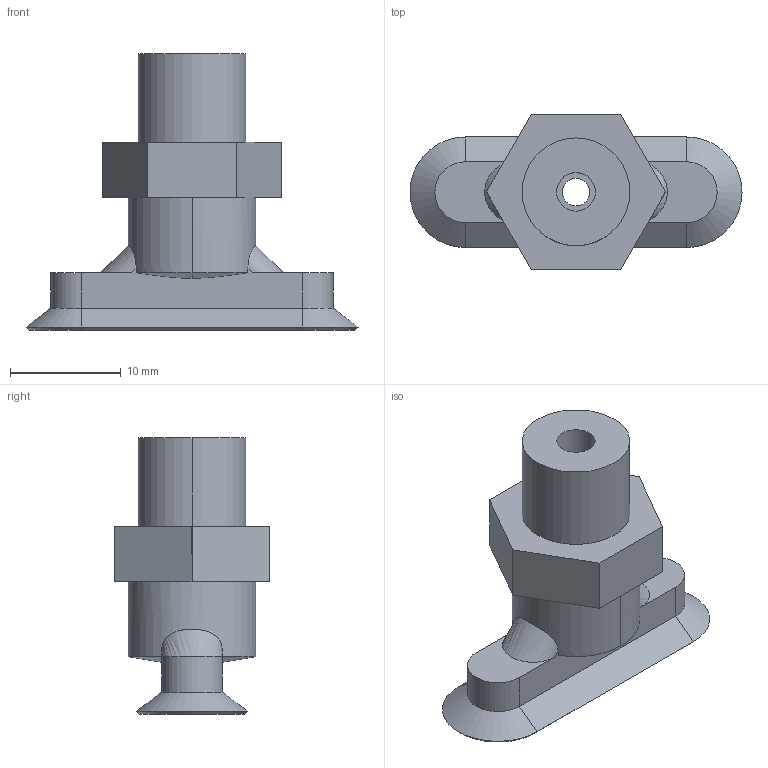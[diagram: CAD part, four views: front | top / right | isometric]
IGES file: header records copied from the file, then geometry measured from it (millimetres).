
Start section: 3D InterOp IGES (v. 2018 1.0.2), Spatial Corp. Copyright (c) 1999-2017.
Global section: file name: schmalz_10_01_05_00410_trl1f62oj2xant15grhdibuv.igs; native system: Spatial Corp.; preprocessor: 3D InterOp ACIS/IGES; author: TraceParts; organization: TraceParts S.A.; date: 20181117.035550; units: millimetre
Bounding box: 30 x 14 x 25 mm (x, y, z)
Surface area: 2028.4 mm2 (no closed solid volume)
Topology: 0 solids, 0 shells, 48 faces, 224 edges, 224 vertices
Faces by surface type: revolution 24, extrusion 22, bspline 2
